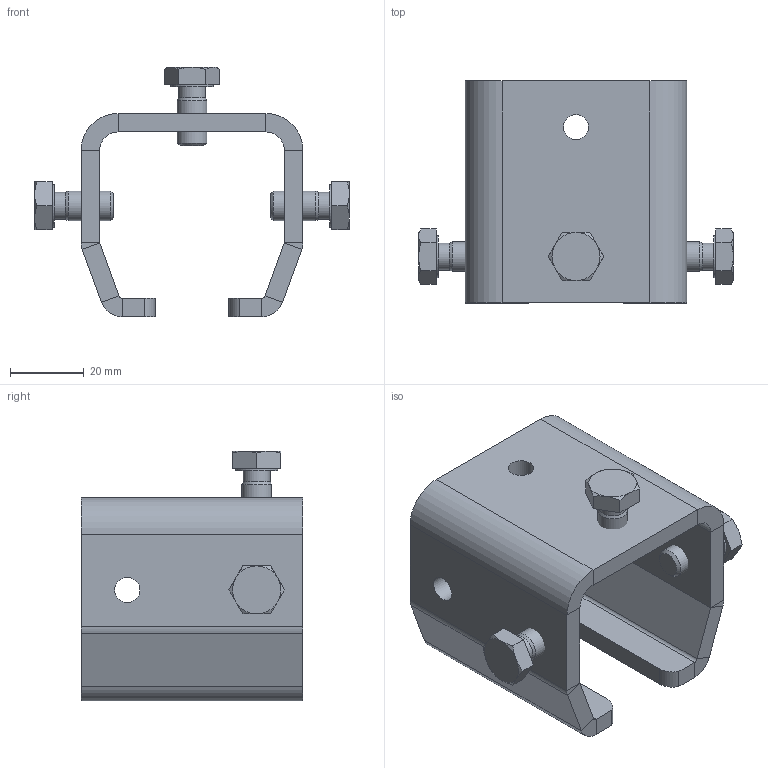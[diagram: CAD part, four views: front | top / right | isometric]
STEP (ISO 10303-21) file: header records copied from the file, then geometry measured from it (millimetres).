
FILE_DESCRIPTION(/* description */ ('Schweissmuffe Nr.2'),/* implementation_level */ '2;1');
FILE_NAME(/* name */ 'D:\Public\STP\010335220-TP.stp',/* time_stamp */ '2020-05-13T14:04:16+02:00',/* author */ ('O. Loukota'),/* organization */ (''),/* preprocessor_version */ 'ST-DEVELOPER v17.2',/* originating_system */ 'Autodesk Inventor 2019',/* authorisation */ '');
FILE_SCHEMA (('AUTOMOTIVE_DESIGN { 1 0 10303 214 3 1 1 }'));
Length unit declared in the file: millimetre
Products named in the file (3): 010335220; 335140020; DIN EN ISO 4017 - M8  x 16
Assembly tree (4 placements, depth 2):
  010335220
    335140020
    DIN EN ISO 4017 - M8  x 16  x3
Bounding box: 85.07 x 60 x 67.53 mm (x, y, z)
Volume: 55031.6 mm3; surface area: 25847.9 mm2
Topology: 4 solids, 4 shells, 127 faces, 285 edges, 172 vertices
Faces by surface type: plane 72, cylinder 31, cone 24
Full cylindrical faces by diameter (mm): 6.647 x3, 6.8 x3, 7.323 x3, 8 x3, 11.4 x3
Entity records: 2447 total; most frequent: DIRECTION 427, CARTESIAN_POINT 415, ORIENTED_EDGE 378, EDGE_CURVE 189, AXIS2_PLACEMENT_3D 158, LINE 111, VECTOR 111, VERTEX_POINT 110
